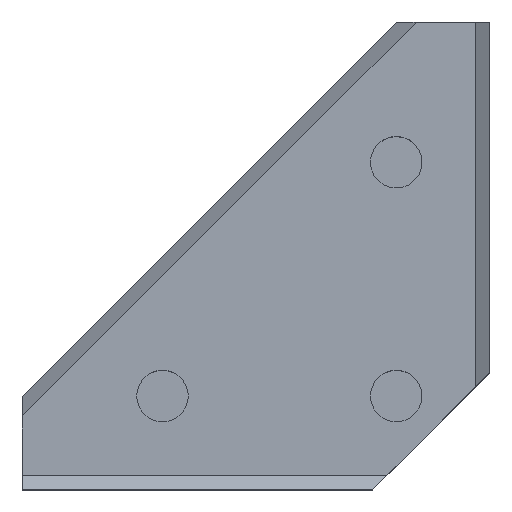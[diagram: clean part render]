
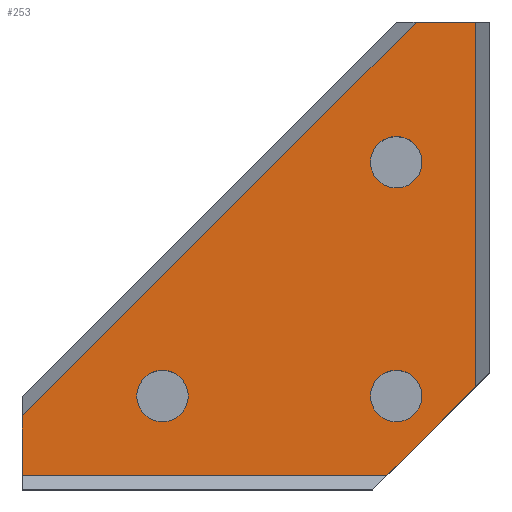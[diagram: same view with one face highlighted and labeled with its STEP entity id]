
A CAD part, top view. The second image highlights one B-rep face of the part: STEP entity #253.
In plain terms, the highlighted planar face has unit normal (0, 0, 1).
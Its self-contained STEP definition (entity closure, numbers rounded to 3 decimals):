
#4 = ORIENTED_EDGE ( 'NONE', *, *, #1353, .T. ) ;
#43 = EDGE_CURVE ( 'NONE', #53, #312, #555, .T. ) ;
#53 = VERTEX_POINT ( 'NONE', #595 ) ;
#66 = EDGE_CURVE ( 'NONE', #312, #185, #696, .T. ) ;
#67 = ORIENTED_EDGE ( 'NONE', *, *, #269, .T. ) ;
#70 = EDGE_CURVE ( 'NONE', #853, #101, #716, .T. ) ;
#75 = EDGE_LOOP ( 'NONE', ( #998, #179 ) ) ;
#90 = ORIENTED_EDGE ( 'NONE', *, *, #619, .F. ) ;
#101 = VERTEX_POINT ( 'NONE', #968 ) ;
#105 = VERTEX_POINT ( 'NONE', #991 ) ;
#165 = EDGE_LOOP ( 'NONE', ( #1053, #256 ) ) ;
#179 = ORIENTED_EDGE ( 'NONE', *, *, #332, .F. ) ;
#185 = VERTEX_POINT ( 'NONE', #714 ) ;
#240 = EDGE_CURVE ( 'NONE', #311, #1216, #339, .T. ) ;
#253 = ADVANCED_FACE ( 'NONE', ( #408, #409, #410, #411 ), #412, .T. ) ;
#256 = ORIENTED_EDGE ( 'NONE', *, *, #333, .F. ) ;
#269 = EDGE_CURVE ( 'NONE', #282, #53, #468, .T. ) ;
#270 = ORIENTED_EDGE ( 'NONE', *, *, #583, .F. ) ;
#282 = VERTEX_POINT ( 'NONE', #529 ) ;
#284 = ORIENTED_EDGE ( 'NONE', *, *, #66, .T. ) ;
#297 = EDGE_LOOP ( 'NONE', ( #270, #328, #4, #67, #511, #284 ) ) ;
#311 = VERTEX_POINT ( 'NONE', #725 ) ;
#312 = VERTEX_POINT ( 'NONE', #731 ) ;
#328 = ORIENTED_EDGE ( 'NONE', *, *, #70, .T. ) ;
#332 = EDGE_CURVE ( 'NONE', #1216, #311, #890, .T. ) ;
#333 = EDGE_CURVE ( 'NONE', #799, #105, #895, .T. ) ;
#339 = CIRCLE ( 'NONE', #340, 1.65 ) ;
#340 = AXIS2_PLACEMENT_3D ( 'NONE', #341, #342, #343 ) ;
#341 = CARTESIAN_POINT ( 'NONE',  ( 9., 6., 8.5 ) ) ;
#342 = DIRECTION ( 'NONE',  ( 0., 0., 1. ) ) ;
#343 = DIRECTION ( 'NONE',  ( 1., 0., 0. ) ) ;
#351 = EDGE_LOOP ( 'NONE', ( #387, #90 ) ) ;
#368 = VERTEX_POINT ( 'NONE', #929 ) ;
#387 = ORIENTED_EDGE ( 'NONE', *, *, #675, .F. ) ;
#408 = FACE_BOUND ( 'NONE', #351, .T. ) ;
#409 = FACE_BOUND ( 'NONE', #75, .T. ) ;
#410 = FACE_BOUND ( 'NONE', #165, .T. ) ;
#411 = FACE_OUTER_BOUND ( 'NONE', #297, .T. ) ;
#412 = PLANE ( 'NONE',  #413 ) ;
#413 = AXIS2_PLACEMENT_3D ( 'NONE', #414, #415, #416 ) ;
#414 = CARTESIAN_POINT ( 'NONE',  ( 0., 0., 8.5 ) ) ;
#415 = DIRECTION ( 'NONE',  ( 0., 0., 1. ) ) ;
#416 = DIRECTION ( 'NONE',  ( 1., 0., 0. ) ) ;
#468 = LINE ( 'NONE', #469, #470 ) ;
#469 = CARTESIAN_POINT ( 'NONE',  ( 22.5, 0., 8.5 ) ) ;
#470 = VECTOR ( 'NONE', #471, 1000. ) ;
#471 = DIRECTION ( 'NONE',  ( 0.707, 0.707, 0. ) ) ;
#511 = ORIENTED_EDGE ( 'NONE', *, *, #43, .T. ) ;
#529 = CARTESIAN_POINT ( 'NONE',  ( 23.4, 0.9, 8.5 ) ) ;
#555 = LINE ( 'NONE', #556, #557 ) ;
#556 = CARTESIAN_POINT ( 'NONE',  ( 29.1, 5.796, 8.5 ) ) ;
#557 = VECTOR ( 'NONE', #558, 1000. ) ;
#558 = DIRECTION ( 'NONE',  ( 0., 1., 0. ) ) ;
#583 = EDGE_CURVE ( 'NONE', #853, #185, #1062, .T. ) ;
#595 = CARTESIAN_POINT ( 'NONE',  ( 29.1, 6.6, 8.5 ) ) ;
#619 = EDGE_CURVE ( 'NONE', #1346, #368, #1076, .T. ) ;
#675 = EDGE_CURVE ( 'NONE', #368, #1346, #1105, .T. ) ;
#680 = CARTESIAN_POINT ( 'NONE',  ( 7.35, 6., 8.5 ) ) ;
#696 = LINE ( 'NONE', #697, #698 ) ;
#697 = CARTESIAN_POINT ( 'NONE',  ( 30., 30., 8.5 ) ) ;
#698 = VECTOR ( 'NONE', #699, 1000. ) ;
#699 = DIRECTION ( 'NONE',  ( -1., 0., 0. ) ) ;
#714 = CARTESIAN_POINT ( 'NONE',  ( 25.273, 30., 8.5 ) ) ;
#716 = LINE ( 'NONE', #717, #718 ) ;
#717 = CARTESIAN_POINT ( 'NONE',  ( 0., 6., 8.5 ) ) ;
#718 = VECTOR ( 'NONE', #719, 1000. ) ;
#719 = DIRECTION ( 'NONE',  ( 0., -1., 0. ) ) ;
#725 = CARTESIAN_POINT ( 'NONE',  ( 10.65, 6., 8.5 ) ) ;
#731 = CARTESIAN_POINT ( 'NONE',  ( 29.1, 30., 8.5 ) ) ;
#799 = VERTEX_POINT ( 'NONE', #1144 ) ;
#853 = VERTEX_POINT ( 'NONE', #1147 ) ;
#875 = CARTESIAN_POINT ( 'NONE',  ( 22.35, 21., 8.5 ) ) ;
#890 = CIRCLE ( 'NONE', #891, 1.65 ) ;
#891 = AXIS2_PLACEMENT_3D ( 'NONE', #892, #893, #894 ) ;
#892 = CARTESIAN_POINT ( 'NONE',  ( 9., 6., 8.5 ) ) ;
#893 = DIRECTION ( 'NONE',  ( 0., 0., 1. ) ) ;
#894 = DIRECTION ( 'NONE',  ( 1., 0., 0. ) ) ;
#895 = CIRCLE ( 'NONE', #896, 1.65 ) ;
#896 = AXIS2_PLACEMENT_3D ( 'NONE', #897, #898, #899 ) ;
#897 = CARTESIAN_POINT ( 'NONE',  ( 24., 6., 8.5 ) ) ;
#898 = DIRECTION ( 'NONE',  ( 0., 0., 1. ) ) ;
#899 = DIRECTION ( 'NONE',  ( 1., 0., 0. ) ) ;
#925 = EDGE_CURVE ( 'NONE', #105, #799, #1168, .T. ) ;
#929 = CARTESIAN_POINT ( 'NONE',  ( 25.65, 21., 8.5 ) ) ;
#953 = LINE ( 'NONE', #954, #955 ) ;
#954 = CARTESIAN_POINT ( 'NONE',  ( 0., 0.9, 8.5 ) ) ;
#955 = VECTOR ( 'NONE', #956, 1000. ) ;
#956 = DIRECTION ( 'NONE',  ( 1., 0., 0. ) ) ;
#968 = CARTESIAN_POINT ( 'NONE',  ( 0., 0.9, 8.5 ) ) ;
#991 = CARTESIAN_POINT ( 'NONE',  ( 25.65, 6., 8.5 ) ) ;
#998 = ORIENTED_EDGE ( 'NONE', *, *, #240, .F. ) ;
#1053 = ORIENTED_EDGE ( 'NONE', *, *, #925, .F. ) ;
#1062 = LINE ( 'NONE', #1063, #1064 ) ;
#1063 = CARTESIAN_POINT ( 'NONE',  ( -2.364, 2.364, 8.5 ) ) ;
#1064 = VECTOR ( 'NONE', #1065, 1000. ) ;
#1065 = DIRECTION ( 'NONE',  ( 0.707, 0.707, 0. ) ) ;
#1076 = CIRCLE ( 'NONE', #1077, 1.65 ) ;
#1077 = AXIS2_PLACEMENT_3D ( 'NONE', #1078, #1079, #1080 ) ;
#1078 = CARTESIAN_POINT ( 'NONE',  ( 24., 21., 8.5 ) ) ;
#1079 = DIRECTION ( 'NONE',  ( 0., 0., 1. ) ) ;
#1080 = DIRECTION ( 'NONE',  ( 1., 0., 0. ) ) ;
#1105 = CIRCLE ( 'NONE', #1106, 1.65 ) ;
#1106 = AXIS2_PLACEMENT_3D ( 'NONE', #1109, #1110, #1111 ) ;
#1109 = CARTESIAN_POINT ( 'NONE',  ( 24., 21., 8.5 ) ) ;
#1110 = DIRECTION ( 'NONE',  ( 0., 0., 1. ) ) ;
#1111 = DIRECTION ( 'NONE',  ( 1., 0., 0. ) ) ;
#1144 = CARTESIAN_POINT ( 'NONE',  ( 22.35, 6., 8.5 ) ) ;
#1147 = CARTESIAN_POINT ( 'NONE',  ( 0., 4.727, 8.5 ) ) ;
#1168 = CIRCLE ( 'NONE', #1169, 1.65 ) ;
#1169 = AXIS2_PLACEMENT_3D ( 'NONE', #1170, #1171, #1172 ) ;
#1170 = CARTESIAN_POINT ( 'NONE',  ( 24., 6., 8.5 ) ) ;
#1171 = DIRECTION ( 'NONE',  ( 0., 0., 1. ) ) ;
#1172 = DIRECTION ( 'NONE',  ( 1., 0., 0. ) ) ;
#1216 = VERTEX_POINT ( 'NONE', #680 ) ;
#1346 = VERTEX_POINT ( 'NONE', #875 ) ;
#1353 = EDGE_CURVE ( 'NONE', #101, #282, #953, .T. ) ;
